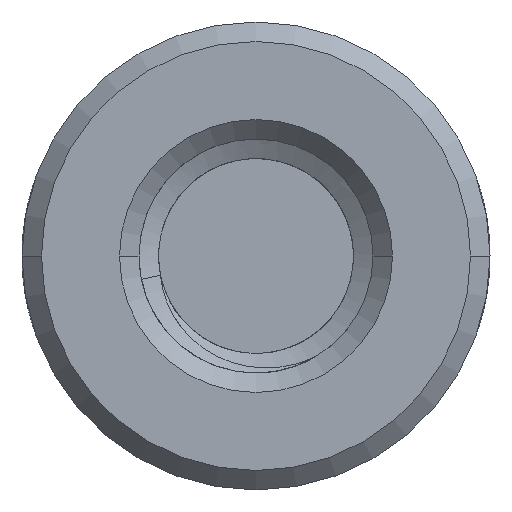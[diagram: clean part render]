
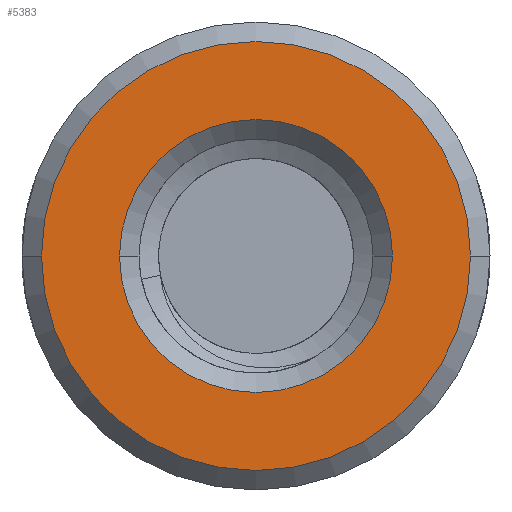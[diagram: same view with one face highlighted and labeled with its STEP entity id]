
A CAD part, front view. The second image highlights one B-rep face of the part: STEP entity #5383.
In plain terms, the highlighted planar face has unit normal (0, -1, 0).
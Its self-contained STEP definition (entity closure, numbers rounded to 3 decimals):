
#1=CARTESIAN_POINT('',(0.,0.,0.));
#2=DIRECTION('',(0.,1.,0.));
#3=DIRECTION('',(-1.,0.,0.));
#4=AXIS2_PLACEMENT_3D('',#1,#2,#3);
#6=CARTESIAN_POINT('',(0.,0.,0.));
#7=DIRECTION('',(0.,1.,0.));
#8=DIRECTION('',(1.,0.,0.));
#9=AXIS2_PLACEMENT_3D('',#6,#7,#8);
#11=CARTESIAN_POINT('',(0.,0.,0.));
#12=DIRECTION('',(0.,-1.,0.));
#13=DIRECTION('',(-1.,0.,0.));
#14=AXIS2_PLACEMENT_3D('',#11,#12,#13);
#16=CARTESIAN_POINT('',(0.,0.,0.));
#17=DIRECTION('',(0.,-1.,0.));
#18=DIRECTION('',(1.,0.,0.));
#19=AXIS2_PLACEMENT_3D('',#16,#17,#18);
#5350=CARTESIAN_POINT('',(-3.5,0.,0.));
#5351=CARTESIAN_POINT('',(3.5,0.,0.));
#5352=VERTEX_POINT('',#5350);
#5353=VERTEX_POINT('',#5351);
#5358=CARTESIAN_POINT('',(-5.5,0.,0.));
#5359=CARTESIAN_POINT('',(5.5,0.,0.));
#5360=VERTEX_POINT('',#5358);
#5361=VERTEX_POINT('',#5359);
#5366=CARTESIAN_POINT('',(0.,0.,0.));
#5367=DIRECTION('',(0.,1.,0.));
#5368=DIRECTION('',(1.,0.,0.));
#5369=AXIS2_PLACEMENT_3D('',#5366,#5367,#5368);
#5370=PLANE('',#5369);
#5372=ORIENTED_EDGE('',*,*,#5371,.F.);
#5374=ORIENTED_EDGE('',*,*,#5373,.F.);
#5375=EDGE_LOOP('',(#5372,#5374));
#5376=FACE_OUTER_BOUND('',#5375,.F.);
#5378=ORIENTED_EDGE('',*,*,#5377,.F.);
#5380=ORIENTED_EDGE('',*,*,#5379,.F.);
#5381=EDGE_LOOP('',(#5378,#5380));
#5382=FACE_BOUND('',#5381,.F.);
#5383=ADVANCED_FACE('',(#5376,#5382),#5370,.F.);
#5=CIRCLE('',#4,3.5);
#10=CIRCLE('',#9,3.5);
#15=CIRCLE('',#14,5.5);
#20=CIRCLE('',#19,5.5);
#5371=EDGE_CURVE('',#5360,#5361,#15,.T.);
#5373=EDGE_CURVE('',#5361,#5360,#20,.T.);
#5377=EDGE_CURVE('',#5352,#5353,#5,.T.);
#5379=EDGE_CURVE('',#5353,#5352,#10,.T.);
